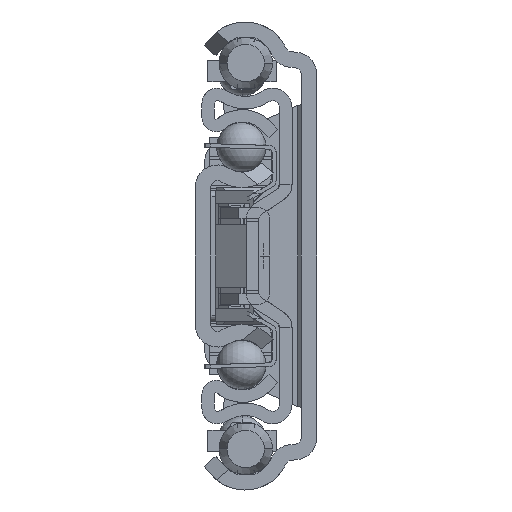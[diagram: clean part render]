
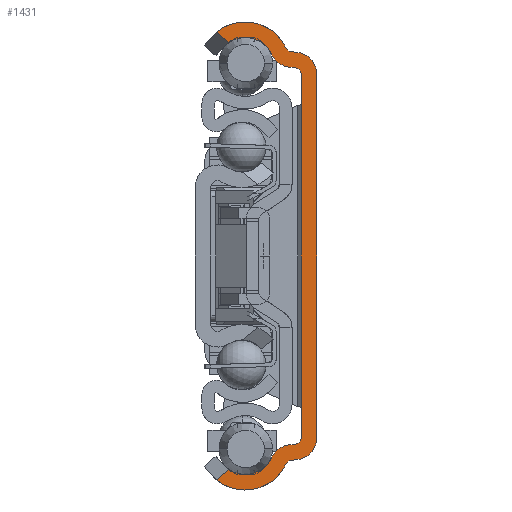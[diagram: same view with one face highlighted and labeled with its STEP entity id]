
A CAD part, left-side view. The second image highlights one B-rep face of the part: STEP entity #1431.
In plain terms, the highlighted planar face has unit normal (-1, 0, 0).
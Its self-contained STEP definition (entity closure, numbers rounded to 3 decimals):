
#1=DIRECTION('',(0.,-0.769,-0.639));
#2=VECTOR('',#1,2.575);
#3=CARTESIAN_POINT('',(0.,16.079,36.021));
#4=LINE('',#3,#2);
#5=CARTESIAN_POINT('',(0.,11.5,30.4));
#6=DIRECTION('',(1.,0.,0.));
#7=DIRECTION('',(0.,0.632,0.775));
#8=AXIS2_PLACEMENT_3D('',#5,#6,#7);
#10=DIRECTION('',(0.,-0.996,-0.087));
#11=VECTOR('',#10,0.904);
#12=CARTESIAN_POINT('',(0.,4.095,32.858));
#13=LINE('',#12,#11);
#14=CARTESIAN_POINT('',(0.,3.5,29.293));
#15=DIRECTION('',(-1.,0.,0.));
#16=DIRECTION('',(0.,-1.,0.));
#17=AXIS2_PLACEMENT_3D('',#14,#15,#16);
#19=DIRECTION('',(0.,0.,-1.));
#20=VECTOR('',#19,58.586);
#21=CARTESIAN_POINT('',(0.,0.,29.293));
#22=LINE('',#21,#20);
#23=CARTESIAN_POINT('',(0.,3.5,-29.293));
#24=DIRECTION('',(-1.,0.,0.));
#25=DIRECTION('',(0.,-0.087,-0.996));
#26=AXIS2_PLACEMENT_3D('',#23,#24,#25);
#28=DIRECTION('',(0.,0.996,-0.087));
#29=VECTOR('',#28,0.904);
#30=CARTESIAN_POINT('',(0.,3.195,-32.78));
#31=LINE('',#30,#29);
#32=CARTESIAN_POINT('',(0.,11.5,-30.4));
#33=DIRECTION('',(1.,0.,0.));
#34=DIRECTION('',(0.,-0.908,-0.419));
#35=AXIS2_PLACEMENT_3D('',#32,#33,#34);
#37=DIRECTION('',(0.,0.769,-0.639));
#38=VECTOR('',#37,2.575);
#39=CARTESIAN_POINT('',(0.,14.098,-34.377));
#40=LINE('',#39,#38);
#41=CARTESIAN_POINT('',(0.,11.5,-30.4));
#42=DIRECTION('',(-1.,0.,0.));
#43=DIRECTION('',(0.,0.547,-0.837));
#44=AXIS2_PLACEMENT_3D('',#41,#42,#43);
#46=CARTESIAN_POINT('',(0.,4.008,-33.854));
#47=DIRECTION('',(-1.,0.,0.));
#48=DIRECTION('',(0.,0.087,0.996));
#49=AXIS2_PLACEMENT_3D('',#46,#47,#48);
#51=DIRECTION('',(0.,-0.996,0.087));
#52=VECTOR('',#51,0.904);
#53=CARTESIAN_POINT('',(0.,4.313,-30.368));
#54=LINE('',#53,#52);
#55=DIRECTION('',(0.,0.,1.));
#56=VECTOR('',#55,58.586);
#57=CARTESIAN_POINT('',(0.,2.5,-29.293));
#58=LINE('',#57,#56);
#59=DIRECTION('',(0.,0.996,0.087));
#60=VECTOR('',#59,0.904);
#61=CARTESIAN_POINT('',(0.,3.413,30.289));
#62=LINE('',#61,#60);
#63=CARTESIAN_POINT('',(0.,4.008,33.854));
#64=DIRECTION('',(-1.,0.,0.));
#65=DIRECTION('',(0.,0.908,-0.419));
#66=AXIS2_PLACEMENT_3D('',#63,#64,#65);
#68=CARTESIAN_POINT('',(0.,11.5,30.4));
#69=DIRECTION('',(-1.,0.,0.));
#70=DIRECTION('',(0.,-0.908,0.419));
#71=AXIS2_PLACEMENT_3D('',#68,#69,#70);
#73=CARTESIAN_POINT('',(0.,14.098,34.377));
#122=CARTESIAN_POINT('',(0.,3.5,29.293));
#123=DIRECTION('',(1.,0.,0.));
#124=DIRECTION('',(0.,-0.087,0.996));
#125=AXIS2_PLACEMENT_3D('',#122,#123,#124);
#623=CARTESIAN_POINT('',(0.,16.079,36.021));
#690=CARTESIAN_POINT('',(0.,16.079,
-36.021));
#745=CARTESIAN_POINT('',(0.,14.098,
-34.377));
#1034=CARTESIAN_POINT('',(0.,3.5,-29.293));
#1035=DIRECTION('',(1.,0.,0.));
#1036=DIRECTION('',(0.,-1.,0.));
#1037=AXIS2_PLACEMENT_3D('',#1034,#1035,#1036);
#1044=CARTESIAN_POINT('',(0.,4.008,-33.854));
#1045=DIRECTION('',(1.,0.,0.));
#1046=DIRECTION('',(0.,0.908,0.419));
#1047=AXIS2_PLACEMENT_3D('',#1044,#1045,#1046);
#1062=CARTESIAN_POINT('',(0.,4.008,33.854));
#1063=DIRECTION('',(1.,0.,0.));
#1064=DIRECTION('',(0.,0.087,-0.996));
#1065=AXIS2_PLACEMENT_3D('',#1062,#1063,#1064);
#1080=CARTESIAN_POINT('',(0.,2.5,-29.293));
#1081=CARTESIAN_POINT('',(0.,2.5,29.293));
#1082=VERTEX_POINT('',#1080);
#1083=VERTEX_POINT('',#1081);
#1084=CARTESIAN_POINT('',(0.,3.413,-30.289));
#1085=VERTEX_POINT('',#1084);
#1086=CARTESIAN_POINT('',(0.,3.413,30.289));
#1087=VERTEX_POINT('',#1086);
#1088=CARTESIAN_POINT('',(0.,4.095,32.858));
#1089=CARTESIAN_POINT('',(0.,4.916,33.436));
#1090=VERTEX_POINT('',#1088);
#1091=VERTEX_POINT('',#1089);
#1092=CARTESIAN_POINT('',(0.,4.916,-33.436));
#1093=CARTESIAN_POINT('',(0.,4.095,-32.858));
#1094=VERTEX_POINT('',#1092);
#1095=VERTEX_POINT('',#1093);
#1096=CARTESIAN_POINT('',(0.,4.313,-30.368));
#1097=CARTESIAN_POINT('',(0.,7.186,-32.389));
#1098=VERTEX_POINT('',#1096);
#1099=VERTEX_POINT('',#1097);
#1100=CARTESIAN_POINT('',(0.,7.186,32.389));
#1101=CARTESIAN_POINT('',(0.,4.313,30.368));
#1102=VERTEX_POINT('',#1100);
#1103=VERTEX_POINT('',#1101);
#1104=CARTESIAN_POINT('',(0.,0.,29.293));
#1105=CARTESIAN_POINT('',(0.,3.195,32.78));
#1106=VERTEX_POINT('',#1104);
#1107=VERTEX_POINT('',#1105);
#1108=CARTESIAN_POINT('',(0.,3.195,-32.78));
#1109=CARTESIAN_POINT('',(0.,0.,-29.293));
#1110=VERTEX_POINT('',#1108);
#1111=VERTEX_POINT('',#1109);
#1358=VERTEX_POINT('',#73);
#1366=VERTEX_POINT('',#623);
#1367=VERTEX_POINT('',#690);
#1375=VERTEX_POINT('',#745);
#1384=CARTESIAN_POINT('',(0.,0.,0.));
#1385=DIRECTION('',(1.,0.,0.));
#1386=DIRECTION('',(0.,-1.,0.));
#1387=AXIS2_PLACEMENT_3D('',#1384,#1385,#1386);
#1388=PLANE('',#1387);
#1390=ORIENTED_EDGE('',*,*,#1389,.F.);
#1392=ORIENTED_EDGE('',*,*,#1391,.T.);
#1394=ORIENTED_EDGE('',*,*,#1393,.F.);
#1396=ORIENTED_EDGE('',*,*,#1395,.T.);
#1398=ORIENTED_EDGE('',*,*,#1397,.F.);
#1400=ORIENTED_EDGE('',*,*,#1399,.T.);
#1402=ORIENTED_EDGE('',*,*,#1401,.F.);
#1404=ORIENTED_EDGE('',*,*,#1403,.T.);
#1406=ORIENTED_EDGE('',*,*,#1405,.F.);
#1408=ORIENTED_EDGE('',*,*,#1407,.T.);
#1410=ORIENTED_EDGE('',*,*,#1409,.F.);
#1412=ORIENTED_EDGE('',*,*,#1411,.T.);
#1414=ORIENTED_EDGE('',*,*,#1413,.F.);
#1416=ORIENTED_EDGE('',*,*,#1415,.T.);
#1418=ORIENTED_EDGE('',*,*,#1417,.F.);
#1420=ORIENTED_EDGE('',*,*,#1419,.T.);
#1422=ORIENTED_EDGE('',*,*,#1421,.F.);
#1424=ORIENTED_EDGE('',*,*,#1423,.T.);
#1426=ORIENTED_EDGE('',*,*,#1425,.F.);
#1428=ORIENTED_EDGE('',*,*,#1427,.T.);
#1429=EDGE_LOOP('',(#1390,#1392,#1394,#1396,#1398,#1400,#1402,#1404,#1406,#1408,
#1410,#1412,#1414,#1416,#1418,#1420,#1422,#1424,#1426,#1428));
#1430=FACE_OUTER_BOUND('',#1429,.F.);
#9=CIRCLE('',#8,7.25);
#18=CIRCLE('',#17,3.5);
#27=CIRCLE('',#26,3.5);
#36=CIRCLE('',#35,7.25);
#45=CIRCLE('',#44,4.75);
#50=CIRCLE('',#49,3.5);
#67=CIRCLE('',#66,3.5);
#72=CIRCLE('',#71,4.75);
#126=CIRCLE('',#125,1.);
#1038=CIRCLE('',#1037,1.);
#1048=CIRCLE('',#1047,1.);
#1066=CIRCLE('',#1065,1.);
#1389=EDGE_CURVE('',#1366,#1358,#4,.T.);
#1391=EDGE_CURVE('',#1366,#1091,#9,.T.);
#1393=EDGE_CURVE('',#1090,#1091,#1066,.T.);
#1395=EDGE_CURVE('',#1090,#1107,#13,.T.);
#1397=EDGE_CURVE('',#1106,#1107,#18,.T.);
#1399=EDGE_CURVE('',#1106,#1111,#22,.T.);
#1401=EDGE_CURVE('',#1110,#1111,#27,.T.);
#1403=EDGE_CURVE('',#1110,#1095,#31,.T.);
#1405=EDGE_CURVE('',#1094,#1095,#1048,.T.);
#1407=EDGE_CURVE('',#1094,#1367,#36,.T.);
#1409=EDGE_CURVE('',#1375,#1367,#40,.T.);
#1411=EDGE_CURVE('',#1375,#1099,#45,.T.);
#1413=EDGE_CURVE('',#1098,#1099,#50,.T.);
#1415=EDGE_CURVE('',#1098,#1085,#54,.T.);
#1417=EDGE_CURVE('',#1082,#1085,#1038,.T.);
#1419=EDGE_CURVE('',#1082,#1083,#58,.T.);
#1421=EDGE_CURVE('',#1087,#1083,#126,.T.);
#1423=EDGE_CURVE('',#1087,#1103,#62,.T.);
#1425=EDGE_CURVE('',#1102,#1103,#67,.T.);
#1427=EDGE_CURVE('',#1102,#1358,#72,.T.);
#1431=ADVANCED_FACE('',(#1430),#1388,.F.);
